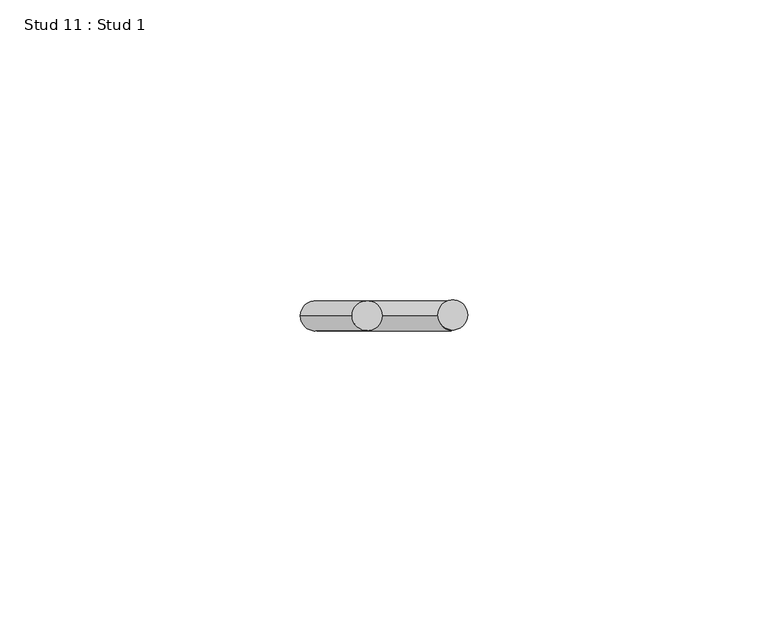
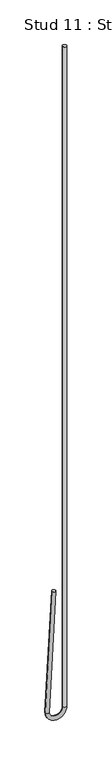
"""IFC4 building model written with IfcOpenShell, lengths in millimetres: proxy geometry, Stud 11 : Stud 1."""

from ifc_helpers import new_model, si_unit, point, frame, origin, place, context, project, spatial, circle_curve, ellipse_curve, trimmed, source, transform, mapped, element, save
from ifc_brep_helpers import plane_surface, cylinder_surface, revolved_surface, advanced_brep


def stud_11_stud_1_e0a150c1(model_context):
    return source(origin(), model_context, "Body", "AdvancedBrep", [
        advanced_brep(
        [(-12209.2532788, 2138.5191481, 3640.800192), (-12204.2601311, 2138.5191481, 3640.5385122), (-12217.8939451, 2138.5191481, 3475.9264558), (-12212.9007975, 2138.5191481, 3475.664776), (-12194.9920812, 2138.5191481, 3475.7956159), (-12189.9920812, 2138.5191481, 3475.7956159), (-12189.9920812, 2138.5191481, 4390.1956159), (-12194.9920812, 2138.5191481, 4390.1956159)],
        [
            (0, 1, circle_curve(frame((-12206.7567049, 2138.5191481, 3640.6693521), z_axis=(0.05233595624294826, 0.0, 0.9986295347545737), x_axis=(0.9986295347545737, 0.0, -0.05233595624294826)), 2.5)),
            (1, 0, circle_curve(frame((-12206.7567049, 2138.5191481, 3640.6693521), z_axis=(0.05233595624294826, 0.0, 0.9986295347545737), x_axis=(0.9986295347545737, 0.0, -0.05233595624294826)), 2.5)),
            (0, 2),
            (2, 3, circle_curve(frame((-12215.3973713, 2138.5191481, 3475.7956159), z_axis=(0.05233595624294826, 0.0, 0.9986295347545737), x_axis=(0.9986295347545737, 0.0, -0.05233595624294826)), 2.5)),
            (3, 1),
            (3, 2, circle_curve(frame((-12215.3973713, 2138.5191481, 3475.7956159), z_axis=(0.05233595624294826, 0.0, 0.9986295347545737), x_axis=(0.9986295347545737, 0.0, -0.05233595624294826)), 2.5)),
            (4, 3, circle_curve(frame((-12203.9447263, 2138.5191481, 3475.7956159), z_axis=(0.0, 1.0, 0.0), x_axis=(-1.0, 0.0, 0.0)), 8.952645)),
            (2, 5, circle_curve(frame((-12203.9447263, 2138.5191481, 3475.7956159), z_axis=(0.0, -1.0, 0.0), x_axis=(-1.0, 0.0, 0.0)), 13.952645)),
            (5, 4, circle_curve(frame((-12192.4920812, 2138.5191481, 3475.7956159), z_axis=(0.0, 0.0, -1.0), x_axis=(-1.0, 0.0, 0.0)), 2.5)),
            (4, 5, circle_curve(frame((-12192.4920812, 2138.5191481, 3475.7956159), z_axis=(0.0, 0.0, -1.0), x_axis=(-1.0, 0.0, 0.0)), 2.5)),
            (6, 7, circle_curve(frame((-12192.4920812, 2138.5191481, 4390.1956159), z_axis=(0.0, 0.0, 1.0), x_axis=(-1.0, 0.0, 0.0)), 2.5)),
            (7, 6, circle_curve(frame((-12192.4920812, 2138.5191481, 4390.1956159), z_axis=(0.0, 0.0, 1.0), x_axis=(-1.0, 0.0, 0.0)), 2.5)),
            (5, 6),
            (7, 4),
        ],
        [
            plane_surface(frame((-12206.7567049, 2732.2441481, 3640.6693521), z_axis=(0.05233595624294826, 0.0, 0.9986295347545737), x_axis=(0.0, -1.0, 0.0))),
            cylinder_surface(frame((-12206.7567049, 2138.5191481, 3640.6693521), z_axis=(0.05233595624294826, 0.0, 0.9986295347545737), x_axis=(0.9986295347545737, 0.0, -0.05233595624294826)), 2.5),
            revolved_surface(trimmed(ellipse_curve(frame((-12215.3973713, 2138.5191481, 3475.7956159), z_axis=(0.0, 0.0, 1.0), x_axis=(1.0, 0.0, 0.0)), 2.5, 2.5), [point((-12217.8973713, 2138.5191481, 3475.7956159))], [point((-12212.8973713, 2138.5191481, 3475.7956159))], True, "CARTESIAN"), (-12203.9447263, 2732.2441481, 3475.7956159), (0.0, -1.0, 0.0)),
            revolved_surface(trimmed(ellipse_curve(frame((-12215.3973713, 2138.5191481, 3475.7956159), z_axis=(0.0, 0.0, 1.0), x_axis=(1.0, 0.0, 0.0)), 2.5, 2.5), [point((-12212.8973713, 2138.5191481, 3475.7956159))], [point((-12217.8973713, 2138.5191481, 3475.7956159))], True, "CARTESIAN"), (-12203.9447263, 2732.2441481, 3475.7956159), (0.0, -1.0, 0.0)),
            plane_surface(frame((-12192.4920812, 2732.2441481, 4390.1956159), z_axis=(0.0, 0.0, 1.0), x_axis=(0.0, -1.0, 0.0))),
            cylinder_surface(frame((-12192.4920812, 2138.5191481, 3475.7956159), z_axis=(0.0, 0.0, -1.0), x_axis=(-1.0, 0.0, 0.0)), 2.5),
        ],
        [
            (0, [[1, 2]]),
            (1, [[-1, 3, 4, 5]]),
            (1, [[-2, -5, 6, -3]]),
            (2, [[7, -4, 8, 9]]),
            (3, [[-8, -6, -7, 10]]),
            (4, [[11, 12]]),
            (5, [[-9, 13, -12, 14]]),
            (5, [[-10, -14, -11, -13]]),
        ],
    ),
    ])


if __name__ == "__main__":
    model = new_model("IFC4")
    model_context = context("Model", 3, world=origin())
    ifc_project = project(units=[si_unit("LENGTHUNIT", "METRE", prefix="MILLI")], contexts=[model_context])
    site = spatial("IfcSite", under=ifc_project)
    building = spatial("IfcBuilding", under=site)
    placement = place(None, origin())
    stud_11_stud_1_shape = stud_11_stud_1_e0a150c1(model_context)
    element("IfcBuildingElementProxy", 1, Name="Stud 11 : Stud 1", ObjectType="Stud 11 : Stud 1", at=placement, inside=building, context=model_context, shape_type="MappedRepresentation", body=[
        mapped(stud_11_stud_1_shape, transform((0.0, 0.0, 0.0), x_axis=(1.0, 0.0, 0.0), y_axis=(0.0, 1.0, 0.0), z_axis=(0.0, 0.0, 1.0))),
    ])
    save(model, "model.ifc")
